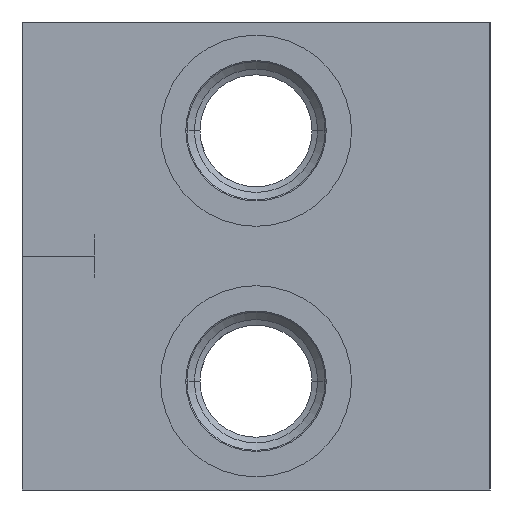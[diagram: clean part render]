
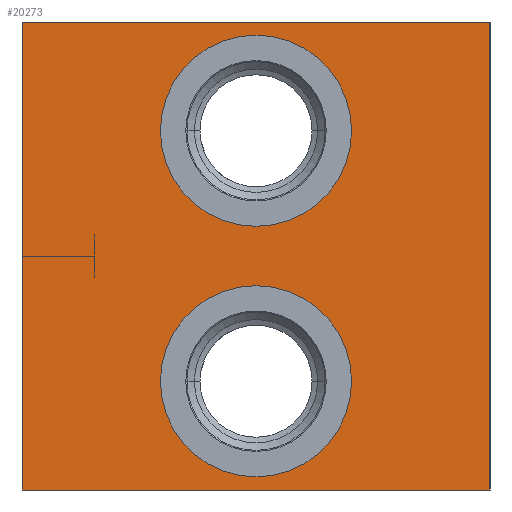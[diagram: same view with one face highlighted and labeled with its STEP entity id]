
A CAD part, left-side view. The second image highlights one B-rep face of the part: STEP entity #20273.
In plain terms, the highlighted planar face has unit normal (-1, 0, 0).
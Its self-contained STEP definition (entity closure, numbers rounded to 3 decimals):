
#26=DIRECTION('',(0.,-1.,0.));
#27=VECTOR('',#26,71.);
#28=CARTESIAN_POINT('',(0.,71.,0.));
#29=LINE('',#28,#27);
#399=DIRECTION('',(0.,0.,-1.));
#400=VECTOR('',#399,71.);
#401=CARTESIAN_POINT('',(0.,0.,0.));
#402=LINE('',#401,#400);
#3120=DIRECTION('',(0.,0.,-1.));
#3121=VECTOR('',#3120,71.);
#3122=CARTESIAN_POINT('',(0.,71.,0.));
#3123=LINE('',#3122,#3121);
#3127=CARTESIAN_POINT('',(0.,35.5,-54.5));
#3128=DIRECTION('',(1.,0.,0.));
#3129=DIRECTION('',(0.,-1.,0.));
#3130=AXIS2_PLACEMENT_3D('',#3127,#3128,#3129);
#3135=CARTESIAN_POINT('',(0.,35.5,-54.5));
#3136=DIRECTION('',(1.,0.,0.));
#3137=DIRECTION('',(0.,1.,0.));
#3138=AXIS2_PLACEMENT_3D('',#3135,#3136,#3137);
#3143=CARTESIAN_POINT('',(0.,35.5,-16.5));
#3144=DIRECTION('',(1.,0.,0.));
#3145=DIRECTION('',(0.,-1.,0.));
#3146=AXIS2_PLACEMENT_3D('',#3143,#3144,#3145);
#3151=CARTESIAN_POINT('',(0.,35.5,-16.5));
#3152=DIRECTION('',(1.,0.,0.));
#3153=DIRECTION('',(0.,1.,0.));
#3154=AXIS2_PLACEMENT_3D('',#3151,#3152,#3153);
#3180=DIRECTION('',(0.,-1.,0.));
#3181=VECTOR('',#3180,71.);
#3182=CARTESIAN_POINT('',(0.,71.,-71.));
#3183=LINE('',#3182,#3181);
#17883=CARTESIAN_POINT('',(0.,0.,0.));
#17885=VERTEX_POINT('',#17883);
#17889=CARTESIAN_POINT('',(0.,71.,0.));
#17890=VERTEX_POINT('',#17889);
#17891=CARTESIAN_POINT('',(0.,0.,-71.));
#17893=VERTEX_POINT('',#17891);
#17897=CARTESIAN_POINT('',(0.,71.,-71.));
#17898=VERTEX_POINT('',#17897);
#17955=CARTESIAN_POINT('',(0.,21.,-54.5));
#17956=CARTESIAN_POINT('',(0.,50.,-54.5));
#17957=VERTEX_POINT('',#17955);
#17958=VERTEX_POINT('',#17956);
#17975=CARTESIAN_POINT('',(0.,21.,-16.5));
#17976=CARTESIAN_POINT('',(0.,50.,-16.5));
#17977=VERTEX_POINT('',#17975);
#17978=VERTEX_POINT('',#17976);
#20249=CARTESIAN_POINT('',(0.,71.,0.));
#20250=DIRECTION('',(-1.,0.,0.));
#20251=DIRECTION('',(0.,-1.,0.));
#20252=AXIS2_PLACEMENT_3D('',#20249,#20250,#20251);
#20253=PLANE('',#20252);
#20254=ORIENTED_EDGE('',*,*,#19477,.T.);
#20255=ORIENTED_EDGE('',*,*,#19640,.T.);
#20257=ORIENTED_EDGE('',*,*,#20256,.F.);
#20258=ORIENTED_EDGE('',*,*,#19737,.F.);
#20259=EDGE_LOOP('',(#20254,#20255,#20257,#20258));
#20260=FACE_OUTER_BOUND('',#20259,.F.);
#20262=ORIENTED_EDGE('',*,*,#20261,.F.);
#20264=ORIENTED_EDGE('',*,*,#20263,.F.);
#20265=EDGE_LOOP('',(#20262,#20264));
#20266=FACE_BOUND('',#20265,.F.);
#20268=ORIENTED_EDGE('',*,*,#20267,.F.);
#20270=ORIENTED_EDGE('',*,*,#20269,.F.);
#20271=EDGE_LOOP('',(#20268,#20270));
#20272=FACE_BOUND('',#20271,.F.);
#3131=CIRCLE('',#3130,14.5);
#3139=CIRCLE('',#3138,14.5);
#3147=CIRCLE('',#3146,14.5);
#3155=CIRCLE('',#3154,14.5);
#19477=EDGE_CURVE('',#17890,#17885,#29,.T.);
#19640=EDGE_CURVE('',#17885,#17893,#402,.T.);
#19737=EDGE_CURVE('',#17890,#17898,#3123,.T.);
#20256=EDGE_CURVE('',#17898,#17893,#3183,.T.);
#20261=EDGE_CURVE('',#17957,#17958,#3131,.T.);
#20263=EDGE_CURVE('',#17958,#17957,#3139,.T.);
#20267=EDGE_CURVE('',#17977,#17978,#3147,.T.);
#20269=EDGE_CURVE('',#17978,#17977,#3155,.T.);
#20273=ADVANCED_FACE('',(#20260,#20266,#20272),#20253,.T.);
